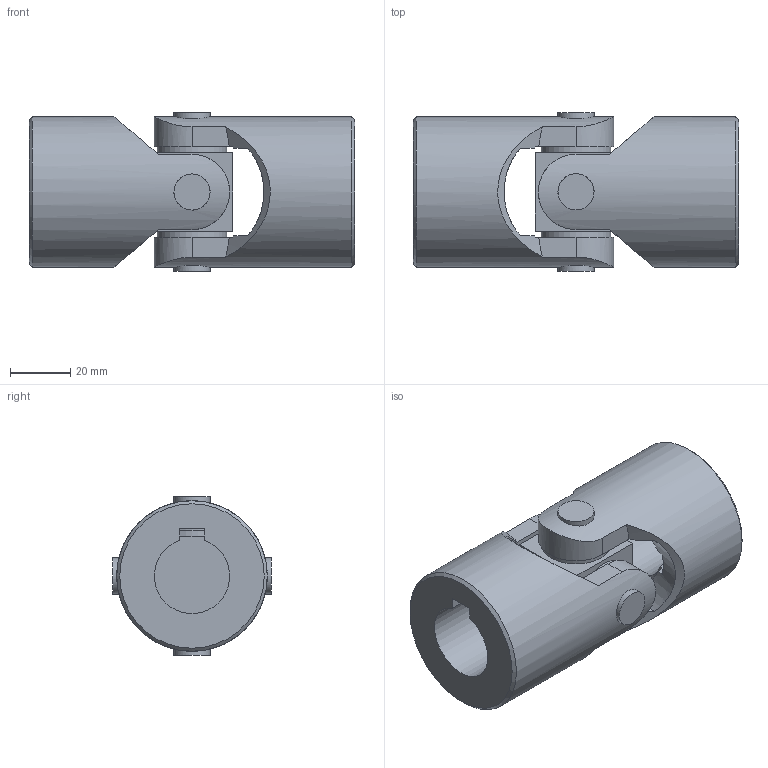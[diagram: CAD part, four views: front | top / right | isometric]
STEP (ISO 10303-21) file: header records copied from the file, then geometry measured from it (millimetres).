
FILE_DESCRIPTION(/* description */ (''),/* implementation_level */ '2;1');
FILE_NAME(/* name */ '\\SRV2016\societa\Stefano\Disegni 3D\0Catalogo 3D\13Singoli X\Ø50_5X_SX0S252C.stp',/* time_stamp */ '2023-05-12T16:15:05+02:00',/* author */ ('acquisti'),/* organization */ (''),/* preprocessor_version */ 'ST-DEVELOPER v15.6',/* originating_system */ 'Autodesk Inventor 2015',/* authorisation */ '');
FILE_SCHEMA (('AUTOMOTIVE_DESIGN { 1 0 10303 214 3 1 1 }'));
Length unit declared in the file: millimetre
Products named in the file (3): 5X SFE; 5X MOC; Ø50_5X_SX0S2500
Assembly tree (3 placements, depth 2):
  Ø50_5X_SX0S2500
    5X SFE
    5X MOC  x2
Bounding box: 108 x 52.76 x 52.76 mm (x, y, z)
Volume: 142919.7 mm3; surface area: 34037.8 mm2
Topology: 3 solids, 3 shells, 70 faces, 182 edges, 124 vertices
Faces by surface type: plane 38, cylinder 18, cone 12, torus 2
Full cylindrical faces by diameter (mm): 12 x4, 23 x4, 50 x2
Entity records: 1455 total; most frequent: CARTESIAN_POINT 476, DIRECTION 187, ORIENTED_EDGE 182, EDGE_CURVE 91, AXIS2_PLACEMENT_3D 77, VERTEX_POINT 67, EDGE_LOOP 58, FACE_OUTER_BOUND 42
